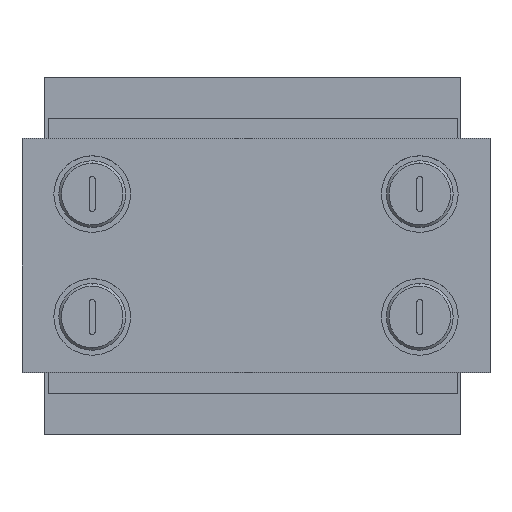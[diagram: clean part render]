
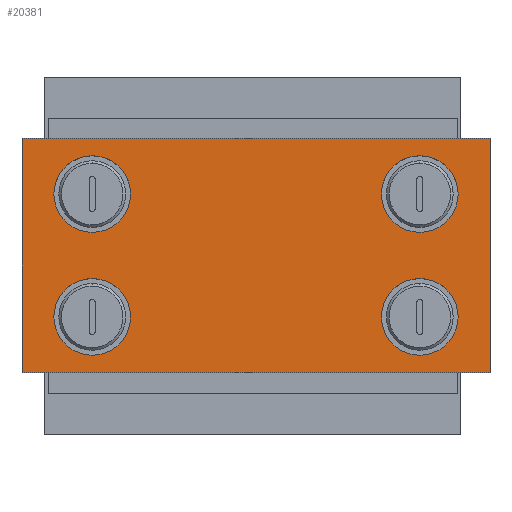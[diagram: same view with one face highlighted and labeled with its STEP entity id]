
A CAD part, top view. The second image highlights one B-rep face of the part: STEP entity #20381.
In plain terms, the highlighted planar face has unit normal (0, 0, 1) as drawn and (0, 1, 0) by its records, which use the part's own axes.
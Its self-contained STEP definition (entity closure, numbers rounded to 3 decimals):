
#407 = CIRCLE ( 'NONE', #24657, 6.55 ) ;
#556 = ORIENTED_EDGE ( 'NONE', *, *, #16855, .F. ) ;
#608 = VECTOR ( 'NONE', #18286, 1000. ) ;
#710 = CARTESIAN_POINT ( 'NONE',  ( 28., 11., 10.5 ) ) ;
#1102 = EDGE_CURVE ( 'NONE', #13553, #14350, #1497, .T. ) ;
#1462 = ORIENTED_EDGE ( 'NONE', *, *, #1102, .F. ) ;
#1497 = CIRCLE ( 'NONE', #20772, 6.55 ) ;
#1618 = VERTEX_POINT ( 'NONE', #9565 ) ;
#1730 = EDGE_CURVE ( 'NONE', #20866, #9013, #2228, .T. ) ;
#1876 = DIRECTION ( 'NONE',  ( 0., 0., 1. ) ) ;
#1904 = DIRECTION ( 'NONE',  ( 0., 1., 0. ) ) ;
#1942 = CARTESIAN_POINT ( 'NONE',  ( 0., 11., 0. ) ) ;
#2044 = EDGE_LOOP ( 'NONE', ( #24474, #17214 ) ) ;
#2069 = AXIS2_PLACEMENT_3D ( 'NONE', #12745, #3347, #5289 ) ;
#2078 = DIRECTION ( 'NONE',  ( -1., 0., 0. ) ) ;
#2228 = LINE ( 'NONE', #16491, #608 ) ;
#2285 = CIRCLE ( 'NONE', #23221, 6.55 ) ;
#2379 = EDGE_LOOP ( 'NONE', ( #1462, #16988 ) ) ;
#2830 = EDGE_CURVE ( 'NONE', #3008, #11979, #407, .T. ) ;
#3008 = VERTEX_POINT ( 'NONE', #12576 ) ;
#3347 = DIRECTION ( 'NONE',  ( 0., 1., 0. ) ) ;
#3419 = ORIENTED_EDGE ( 'NONE', *, *, #4219, .F. ) ;
#3501 = CARTESIAN_POINT ( 'NONE',  ( -40., 11., -20. ) ) ;
#3757 = EDGE_CURVE ( 'NONE', #1618, #5573, #19291, .T. ) ;
#4132 = CIRCLE ( 'NONE', #17676, 6.55 ) ;
#4219 = EDGE_CURVE ( 'NONE', #11979, #3008, #11925, .T. ) ;
#4479 = DIRECTION ( 'NONE',  ( 0., 0., 1. ) ) ;
#4924 = VECTOR ( 'NONE', #5606, 1000. ) ;
#4949 = EDGE_CURVE ( 'NONE', #9013, #1618, #14369, .T. ) ;
#5289 = DIRECTION ( 'NONE',  ( 0., 0., 1. ) ) ;
#5341 = DIRECTION ( 'NONE',  ( 0., -1., 0. ) ) ;
#5401 = CARTESIAN_POINT ( 'NONE',  ( -28., 11., -10.5 ) ) ;
#5573 = VERTEX_POINT ( 'NONE', #3501 ) ;
#5606 = DIRECTION ( 'NONE',  ( 0., 0., 1. ) ) ;
#6101 = CARTESIAN_POINT ( 'NONE',  ( -40., 11., -20. ) ) ;
#6153 = EDGE_CURVE ( 'NONE', #15590, #24114, #12112, .T. ) ;
#6250 = DIRECTION ( 'NONE',  ( 0., 1., 0. ) ) ;
#6370 = AXIS2_PLACEMENT_3D ( 'NONE', #17852, #21701, #4479 ) ;
#6597 = EDGE_CURVE ( 'NONE', #9385, #13550, #2285, .T. ) ;
#7276 = FACE_BOUND ( 'NONE', #2379, .T. ) ;
#7403 = VECTOR ( 'NONE', #2078, 1000. ) ;
#7518 = DIRECTION ( 'NONE',  ( 0., 0., 1. ) ) ;
#7771 = EDGE_LOOP ( 'NONE', ( #556, #18891 ) ) ;
#8496 = CIRCLE ( 'NONE', #6370, 6.55 ) ;
#8967 = LINE ( 'NONE', #24836, #4924 ) ;
#9013 = VERTEX_POINT ( 'NONE', #9961 ) ;
#9385 = VERTEX_POINT ( 'NONE', #13156 ) ;
#9565 = CARTESIAN_POINT ( 'NONE',  ( 40., 11., -20. ) ) ;
#9689 = CARTESIAN_POINT ( 'NONE',  ( 28., 11., 17.05 ) ) ;
#9961 = CARTESIAN_POINT ( 'NONE',  ( 40., 11., 20. ) ) ;
#10252 = DIRECTION ( 'NONE',  ( 0., 0., 1. ) ) ;
#11602 = CARTESIAN_POINT ( 'NONE',  ( -28., 11., 17.05 ) ) ;
#11638 = ORIENTED_EDGE ( 'NONE', *, *, #3757, .T. ) ;
#11925 = CIRCLE ( 'NONE', #2069, 6.55 ) ;
#11979 = VERTEX_POINT ( 'NONE', #24369 ) ;
#12112 = CIRCLE ( 'NONE', #17057, 6.55 ) ;
#12428 = DIRECTION ( 'NONE',  ( 0., 0., -1. ) ) ;
#12576 = CARTESIAN_POINT ( 'NONE',  ( 28., 11., -3.95 ) ) ;
#12745 = CARTESIAN_POINT ( 'NONE',  ( 28., 11., -10.5 ) ) ;
#12779 = ORIENTED_EDGE ( 'NONE', *, *, #4949, .T. ) ;
#13156 = CARTESIAN_POINT ( 'NONE',  ( -28., 11., 3.95 ) ) ;
#13182 = FACE_BOUND ( 'NONE', #7771, .T. ) ;
#13550 = VERTEX_POINT ( 'NONE', #11602 ) ;
#13553 = VERTEX_POINT ( 'NONE', #9689 ) ;
#13876 = DIRECTION ( 'NONE',  ( 0., 1., 0. ) ) ;
#14264 = DIRECTION ( 'NONE',  ( 0., 1., 0. ) ) ;
#14350 = VERTEX_POINT ( 'NONE', #16700 ) ;
#14369 = LINE ( 'NONE', #22179, #20896 ) ;
#14773 = CARTESIAN_POINT ( 'NONE',  ( -28., 11., -3.95 ) ) ;
#15018 = EDGE_CURVE ( 'NONE', #5573, #20866, #8967, .T. ) ;
#15118 = FACE_OUTER_BOUND ( 'NONE', #23481, .T. ) ;
#15590 = VERTEX_POINT ( 'NONE', #18812 ) ;
#15669 = AXIS2_PLACEMENT_3D ( 'NONE', #1942, #5341, #17746 ) ;
#15743 = DIRECTION ( 'NONE',  ( 0., 0., 1. ) ) ;
#16298 = EDGE_CURVE ( 'NONE', #24114, #15590, #4132, .T. ) ;
#16472 = CIRCLE ( 'NONE', #20570, 6.55 ) ;
#16491 = CARTESIAN_POINT ( 'NONE',  ( -40., 11., 20. ) ) ;
#16700 = CARTESIAN_POINT ( 'NONE',  ( 28., 11., 3.95 ) ) ;
#16855 = EDGE_CURVE ( 'NONE', #13550, #9385, #16472, .T. ) ;
#16988 = ORIENTED_EDGE ( 'NONE', *, *, #24063, .F. ) ;
#17057 = AXIS2_PLACEMENT_3D ( 'NONE', #5401, #19135, #1876 ) ;
#17214 = ORIENTED_EDGE ( 'NONE', *, *, #6153, .F. ) ;
#17606 = EDGE_LOOP ( 'NONE', ( #23883, #3419 ) ) ;
#17676 = AXIS2_PLACEMENT_3D ( 'NONE', #24014, #1904, #10252 ) ;
#17746 = DIRECTION ( 'NONE',  ( 0., 0., -1. ) ) ;
#17798 = CARTESIAN_POINT ( 'NONE',  ( -28., 11., 10.5 ) ) ;
#17852 = CARTESIAN_POINT ( 'NONE',  ( 28., 11., 10.5 ) ) ;
#18286 = DIRECTION ( 'NONE',  ( 1., 0., 0. ) ) ;
#18812 = CARTESIAN_POINT ( 'NONE',  ( -28., 11., -17.05 ) ) ;
#18891 = ORIENTED_EDGE ( 'NONE', *, *, #6597, .F. ) ;
#19135 = DIRECTION ( 'NONE',  ( 0., 1., 0. ) ) ;
#19291 = LINE ( 'NONE', #6101, #7403 ) ;
#20381 = ADVANCED_FACE ( 'NONE', ( #20867, #7276, #13182, #22955, #15118 ), #23419, .F. ) ;
#20570 = AXIS2_PLACEMENT_3D ( 'NONE', #17798, #6250, #15743 ) ;
#20772 = AXIS2_PLACEMENT_3D ( 'NONE', #710, #13876, #24262 ) ;
#20865 = ORIENTED_EDGE ( 'NONE', *, *, #1730, .T. ) ;
#20866 = VERTEX_POINT ( 'NONE', #24289 ) ;
#20867 = FACE_BOUND ( 'NONE', #17606, .T. ) ;
#20896 = VECTOR ( 'NONE', #12428, 1000. ) ;
#21245 = DIRECTION ( 'NONE',  ( 0., 1., 0. ) ) ;
#21701 = DIRECTION ( 'NONE',  ( 0., 1., 0. ) ) ;
#22179 = CARTESIAN_POINT ( 'NONE',  ( 40., 11., 20. ) ) ;
#22824 = CARTESIAN_POINT ( 'NONE',  ( -28., 11., 10.5 ) ) ;
#22955 = FACE_BOUND ( 'NONE', #2044, .T. ) ;
#23221 = AXIS2_PLACEMENT_3D ( 'NONE', #22824, #21245, #7518 ) ;
#23419 = PLANE ( 'NONE',  #15669 ) ;
#23481 = EDGE_LOOP ( 'NONE', ( #24911, #20865, #12779, #11638 ) ) ;
#23775 = CARTESIAN_POINT ( 'NONE',  ( 28., 11., -10.5 ) ) ;
#23883 = ORIENTED_EDGE ( 'NONE', *, *, #2830, .F. ) ;
#23906 = DIRECTION ( 'NONE',  ( 0., 0., 1. ) ) ;
#24014 = CARTESIAN_POINT ( 'NONE',  ( -28., 11., -10.5 ) ) ;
#24063 = EDGE_CURVE ( 'NONE', #14350, #13553, #8496, .T. ) ;
#24114 = VERTEX_POINT ( 'NONE', #14773 ) ;
#24262 = DIRECTION ( 'NONE',  ( 0., 0., 1. ) ) ;
#24289 = CARTESIAN_POINT ( 'NONE',  ( -40., 11., 20. ) ) ;
#24369 = CARTESIAN_POINT ( 'NONE',  ( 28., 11., -17.05 ) ) ;
#24474 = ORIENTED_EDGE ( 'NONE', *, *, #16298, .F. ) ;
#24657 = AXIS2_PLACEMENT_3D ( 'NONE', #23775, #14264, #23906 ) ;
#24836 = CARTESIAN_POINT ( 'NONE',  ( -40., 11., 20. ) ) ;
#24911 = ORIENTED_EDGE ( 'NONE', *, *, #15018, .T. ) ;
